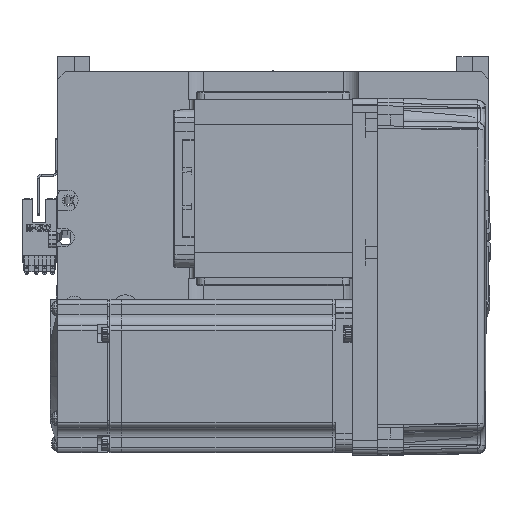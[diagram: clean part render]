
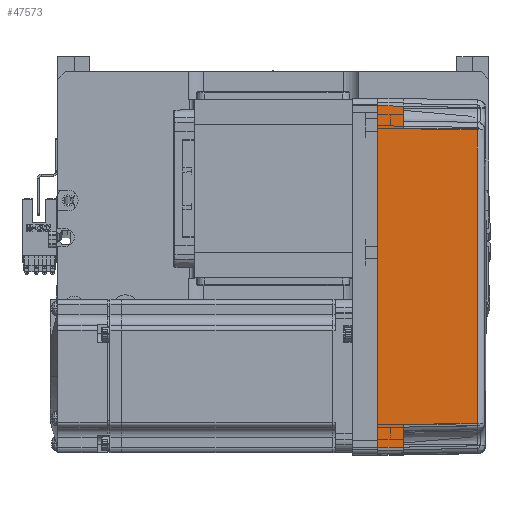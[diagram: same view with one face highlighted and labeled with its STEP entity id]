
A CAD part, top view. The second image highlights one B-rep face of the part: STEP entity #47573.
In plain terms, the highlighted planar face has unit normal (0.018, 0, 1) as drawn and (0, 1, 0.017) by its records, which use the part's own axes.
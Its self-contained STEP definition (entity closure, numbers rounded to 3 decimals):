
#1947 = EDGE_CURVE ( 'NONE', #41389, #30439, #15789, .T. ) ;
#5429 = CARTESIAN_POINT ( 'NONE',  ( 67., 36., 0. ) ) ;
#5488 = VERTEX_POINT ( 'NONE', #18466 ) ;
#6097 = EDGE_CURVE ( 'NONE', #5488, #41389, #39654, .T. ) ;
#7343 = ORIENTED_EDGE ( 'NONE', *, *, #65252, .T. ) ;
#7950 = EDGE_CURVE ( 'NONE', #30439, #15355, #52973, .T. ) ;
#8419 = CARTESIAN_POINT ( 'NONE',  ( 57.495, 35.32, 38.985 ) ) ;
#10168 = LINE ( 'NONE', #39831, #17271 ) ;
#13268 = VECTOR ( 'NONE', #38462, 1000. ) ;
#15355 = VERTEX_POINT ( 'NONE', #62087 ) ;
#15789 = LINE ( 'NONE', #23491, #64792 ) ;
#16567 = CARTESIAN_POINT ( 'NONE',  ( -67., 36., 0. ) ) ;
#16905 = DIRECTION ( 'NONE',  ( 1., 0., 0. ) ) ;
#17271 = VECTOR ( 'NONE', #60342, 1000. ) ;
#18466 = CARTESIAN_POINT ( 'NONE',  ( -66.826, 35.825, 10. ) ) ;
#19043 = DIRECTION ( 'NONE',  ( 0.017, -0.017, 1. ) ) ;
#19183 = EDGE_CURVE ( 'NONE', #32025, #5488, #27943, .T. ) ;
#19377 = ORIENTED_EDGE ( 'NONE', *, *, #7950, .T. ) ;
#21307 = VERTEX_POINT ( 'NONE', #46757 ) ;
#22203 = DIRECTION ( 'NONE',  ( 0., -0.017, 1. ) ) ;
#22501 = VECTOR ( 'NONE', #44109, 1000. ) ;
#22620 = FACE_OUTER_BOUND ( 'NONE', #51087, .T. ) ;
#23491 = CARTESIAN_POINT ( 'NONE',  ( -58., 35.825, 10. ) ) ;
#24576 = VECTOR ( 'NONE', #16905, 1000. ) ;
#25323 = CARTESIAN_POINT ( 'NONE',  ( 70., 35.825, 10. ) ) ;
#25582 = VERTEX_POINT ( 'NONE', #5429 ) ;
#26934 = CARTESIAN_POINT ( 'NONE',  ( 70., 35.825, 10. ) ) ;
#27324 = CARTESIAN_POINT ( 'NONE',  ( 70., 36., 0. ) ) ;
#27361 = CARTESIAN_POINT ( 'NONE',  ( -19.165, 35.316, 39.181 ) ) ;
#27943 = LINE ( 'NONE', #38757, #44603 ) ;
#28204 = VERTEX_POINT ( 'NONE', #63831 ) ;
#28350 = EDGE_CURVE ( 'NONE', #25582, #21307, #10168, .T. ) ;
#28702 = EDGE_CURVE ( 'NONE', #32025, #25582, #38668, .T. ) ;
#29007 = CARTESIAN_POINT ( 'NONE',  ( -57.495, 35.32, 38.985 ) ) ;
#30439 = VERTEX_POINT ( 'NONE', #29007 ) ;
#32025 = VERTEX_POINT ( 'NONE', #16567 ) ;
#33685 = DIRECTION ( 'NONE',  ( 0.017, -0.017, 1. ) ) ;
#34924 = CARTESIAN_POINT ( 'NONE',  ( -58., 35.825, 10. ) ) ;
#37091 = CARTESIAN_POINT ( 'NONE',  ( -57.495, 35.32, 38.985 ) ) ;
#38462 = DIRECTION ( 'NONE',  ( 1., 0., 0. ) ) ;
#38668 = LINE ( 'NONE', #53930, #13268 ) ;
#38757 = CARTESIAN_POINT ( 'NONE',  ( -67., 36., 0. ) ) ;
#38930 = ORIENTED_EDGE ( 'NONE', *, *, #19183, .T. ) ;
#39654 = LINE ( 'NONE', #26934, #24576 ) ;
#39831 = CARTESIAN_POINT ( 'NONE',  ( 67.001, 36.001, -0.052 ) ) ;
#41389 = VERTEX_POINT ( 'NONE', #34924 ) ;
#43631 = ORIENTED_EDGE ( 'NONE', *, *, #64257, .T. ) ;
#44109 = DIRECTION ( 'NONE',  ( 0.017, 0.017, -1. ) ) ;
#44603 = VECTOR ( 'NONE', #19043, 1000. ) ;
#46757 = CARTESIAN_POINT ( 'NONE',  ( 66.826, 35.825, 10. ) ) ;
#47052 = LINE ( 'NONE', #8419, #22501 ) ;
#47573 = ADVANCED_FACE ( 'NONE', ( #22620 ), #57381, .T. ) ;
#47698 = CARTESIAN_POINT ( 'NONE',  ( 57.495, 35.32, 38.985 ) ) ;
#47975 = LINE ( 'NONE', #25323, #62928 ) ;
#48689 = AXIS2_PLACEMENT_3D ( 'NONE', #27324, #62210, #22203 ) ;
#49406 = ORIENTED_EDGE ( 'NONE', *, *, #28350, .F. ) ;
#50845 = ORIENTED_EDGE ( 'NONE', *, *, #28702, .F. ) ;
#51087 = EDGE_LOOP ( 'NONE', ( #38930, #53265, #51322, #19377, #7343, #43631, #49406, #50845 ) ) ;
#51322 = ORIENTED_EDGE ( 'NONE', *, *, #1947, .T. ) ;
#52364 = CARTESIAN_POINT ( 'NONE',  ( 19.165, 35.316, 39.181 ) ) ;
#52973 = B_SPLINE_CURVE_WITH_KNOTS ( 'NONE', 3,
 ( #37091, #27361, #52364, #47698 ),
 .UNSPECIFIED., .F., .F.,
 ( 4, 4 ),
 ( 0., 1. ),
 .UNSPECIFIED. ) ;
#53265 = ORIENTED_EDGE ( 'NONE', *, *, #6097, .T. ) ;
#53930 = CARTESIAN_POINT ( 'NONE',  ( 0., 36., 0. ) ) ;
#57381 = PLANE ( 'NONE',  #48689 ) ;
#60342 = DIRECTION ( 'NONE',  ( -0.017, -0.017, 1. ) ) ;
#60670 = DIRECTION ( 'NONE',  ( 1., 0., 0. ) ) ;
#62087 = CARTESIAN_POINT ( 'NONE',  ( 57.495, 35.32, 38.985 ) ) ;
#62210 = DIRECTION ( 'NONE',  ( 0., 1., 0.017 ) ) ;
#62928 = VECTOR ( 'NONE', #60670, 1000. ) ;
#63831 = CARTESIAN_POINT ( 'NONE',  ( 58., 35.825, 10. ) ) ;
#64257 = EDGE_CURVE ( 'NONE', #28204, #21307, #47975, .T. ) ;
#64792 = VECTOR ( 'NONE', #33685, 1000. ) ;
#65252 = EDGE_CURVE ( 'NONE', #15355, #28204, #47052, .T. ) ;
